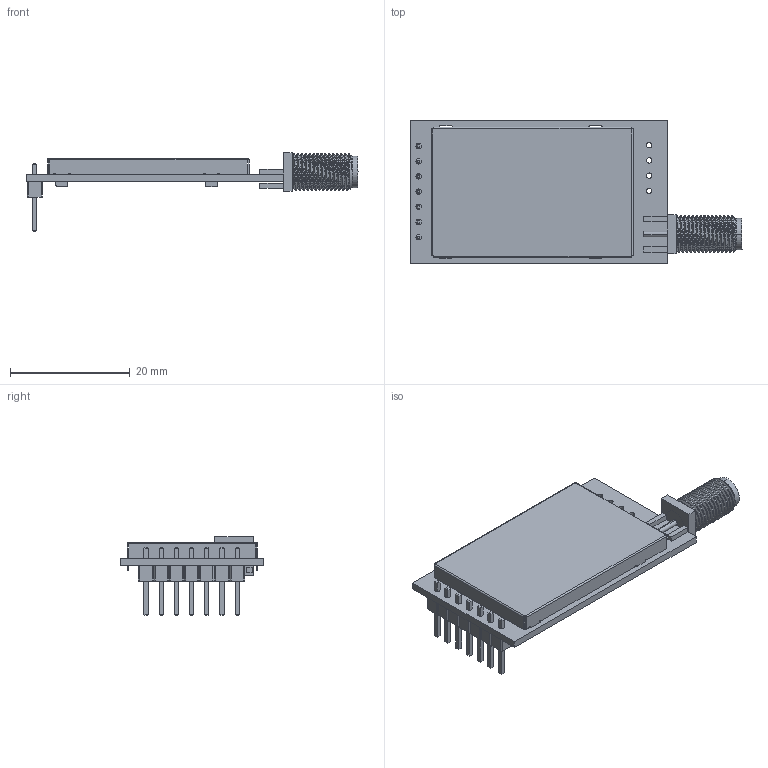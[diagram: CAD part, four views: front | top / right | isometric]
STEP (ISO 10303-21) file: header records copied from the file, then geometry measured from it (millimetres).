
FILE_DESCRIPTION(('Open CASCADE Model'),'2;1');
FILE_NAME('Open CASCADE Shape Model','2025-08-20T14:49:34',('Author'),( 'Open CASCADE'),'Open CASCADE STEP processor 6.8','Open CASCADE 6.8' ,'Unknown');
FILE_SCHEMA(('AUTOMOTIVE_DESIGN { 1 0 10303 214 1 1 1 1 }'));
Length unit declared in the file: millimetre
Products named in the file (113): PCB; Board; C58; CAPC1005X56N_EIA_0402; C56; C61; CAPC1608X92N_EIA_0603; R32; R0402; R31; R27; R26; R25; R24; R23; C1; C2; C3; C4; C5; C6; C7; C11; C12; C13; C14; C16; C17; C18; C19; C22; C23; C24; C26; C30; C31; C33; C35; C38; C39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
Assembly tree (194 placements, depth 3):
  PCB
    Board
    C58
      CAPC1005X56N_EIA_0402
    C56
      CAPC1005X56N_EIA_0402
    C61
      CAPC1608X92N_EIA_0603
    R32
      R0402
    R31
      R0402
    R27
      R0402
    R26
      R0402
    R25
      R0402
    R24
      R0402
    R23
      R0402
    C1
      CAPC1005X56N_EIA_0402
    C2
      CAPC1608X92N_EIA_0603
    C3
      CAPC1608X92N_EIA_0603
    C4
      CAPC1608X92N_EIA_0603
    C5
      CAPC1608X92N_EIA_0603
    C6
      CAPC1608X92N_EIA_0603
    C7
      CAPC1005X56N_EIA_0402
    C11
      CAPC1608X92N_EIA_0603
    C12
      CAPC1608X92N_EIA_0603
    C13
      CAPC1005X56N_EIA_0402
    C14
      CAPC1005X56N_EIA_0402
    C16
      CAPC1005X56N_EIA_0402
    C17
      CAPC1005X56N_EIA_0402
    C18
      CAPC1005X56N_EIA_0402
    C19
      CAPC1005X56N_EIA_0402
    C22
      CAPC1005X56N_EIA_0402
    C23
      CAPC1005X56N_EIA_0402
    C24
      CAPC1005X56N_EIA_0402
    C26
      CAPC1005X56N_EIA_0402
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Bounding box: 55.5 x 24 x 13.2 mm (x, y, z)
Volume: 2191.5 mm3; surface area: 8212.2 mm2
Topology: 118 solids, 118 shells, 5661 faces, 13249 edges, 7421 vertices
Faces by surface type: plane 2768, cylinder 1675, bspline 627, sphere 576, torus 12, cone 3
Full cylindrical faces by diameter (mm): 0.65 x4, 0.9 x4
Entity records: 165809 total; most frequent: CARTESIAN_POINT 84866, DIRECTION 12575, LINE 8225, VECTOR 8225, ORIENTED_EDGE 7832, PCURVE 7832, DEFINITIONAL_REPRESENTATION 7832, EDGE_CURVE 3916
